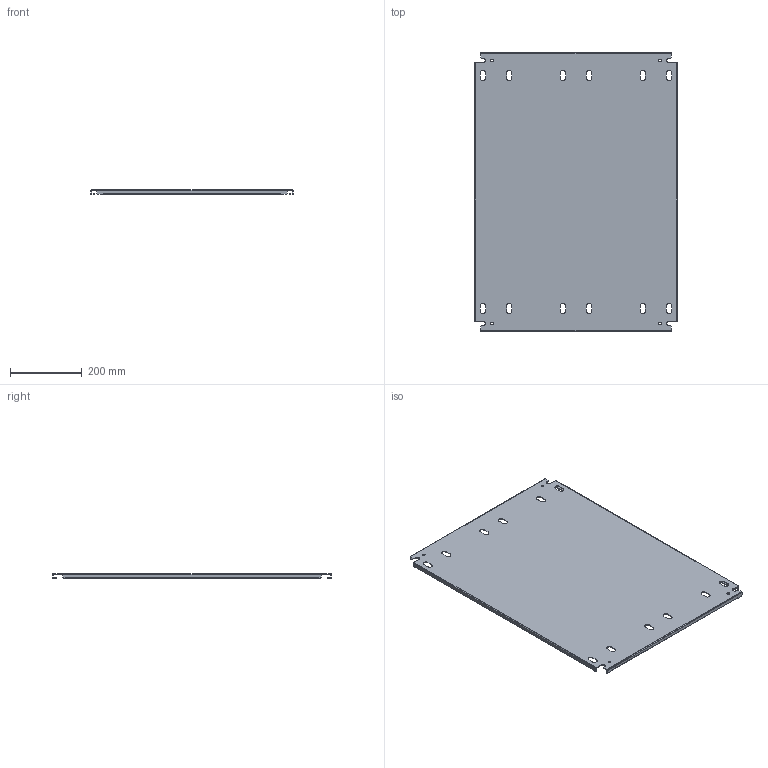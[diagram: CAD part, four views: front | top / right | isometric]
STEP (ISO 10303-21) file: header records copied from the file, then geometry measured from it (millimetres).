
FILE_DESCRIPTION(/* description */ ('1412BTCU 22.125" x 28" Right Inner Panel'),/* implementation_level */ '2;1');
FILE_NAME(/* name */ 'C:\Vault_Workspace\Inventor_Dwg\BoxCad\Result\1412BTCU072503DT\e-mail\3D\1412BTCU072503DTIP2.stp',/* time_stamp */ '2022-10-24T15:19:44-04:00',/* author */ ('BoxCad'),/* organization */ (''),/* preprocessor_version */ 'ST-DEVELOPER v18.1',/* originating_system */ 'Autodesk Inventor 2020',/* authorisation */ '');
FILE_SCHEMA (('AUTOMOTIVE_DESIGN { 1 0 10303 214 3 1 1 }'));
Length unit declared in the file: inch
Products named in the file (2): 1412BTCU072503DTIP2; 1412BTCU072503DTIP2-P
Assembly tree (1 placements, depth 2):
  1412BTCU072503DTIP2
    1412BTCU072503DTIP2-P
Bounding box: 561.98 x 774.7 x 13 mm (x, y, z)
Volume: 818796.7 mm3; surface area: 954889.2 mm2
Topology: 1 solids, 1 shells, 158 faces, 468 edges, 312 vertices
Faces by surface type: plane 90, cylinder 68
Full cylindrical faces by diameter (mm): 7.366 x4
Entity records: 5441 total; most frequent: CARTESIAN_POINT 941, ORIENTED_EDGE 936, DIRECTION 926, EDGE_CURVE 468, LINE 332, VECTOR 332, VERTEX_POINT 312, AXIS2_PLACEMENT_3D 297
